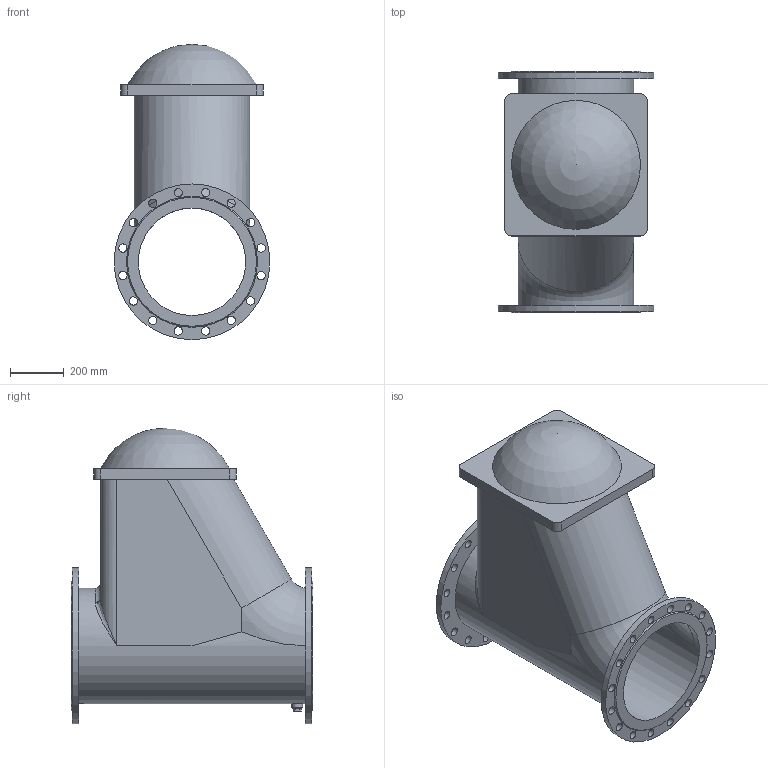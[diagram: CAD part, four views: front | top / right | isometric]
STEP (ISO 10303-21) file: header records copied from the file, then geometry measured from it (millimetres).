
FILE_DESCRIPTION(('STEP AP203'), '1');
FILE_NAME('Êëàïàí îáðàòíûé øàðîâîé ôëàíöåâûé 012F.Z DN400 PN16', '', ('UNSPECIFIED'), ('UNSPECIFIED'), 'ASCON STEP Converter 1.6', 'ASCON Math Kernel', '');
FILE_SCHEMA(('CONFIG_CONTROL_DESIGN'));
Length unit declared in the file: millimetre
Bounding box: 580 x 900 x 1100 mm (x, y, z)
Volume: 126271229.6 mm3; surface area: 4587620 mm2
Topology: 1 solids, 1 shells, 88 faces, 226 edges, 146 vertices
Faces by surface type: cylinder 47, plane 33, torus 3, bspline 2, cone 2, sphere 1
Full cylindrical faces by diameter (mm): 31 x32, 32 x1, 40 x1, 400 x1, 430 x1, 580 x2
Entity records: 3936 total; most frequent: CARTESIAN_POINT 1076, DIRECTION 429, ORIENTED_EDGE 362, EDGE_LOOP 204, AXIS2_PLACEMENT_3D 186, EDGE_CURVE 181, VERTEX_POINT 145, FACE_BOUND 124
